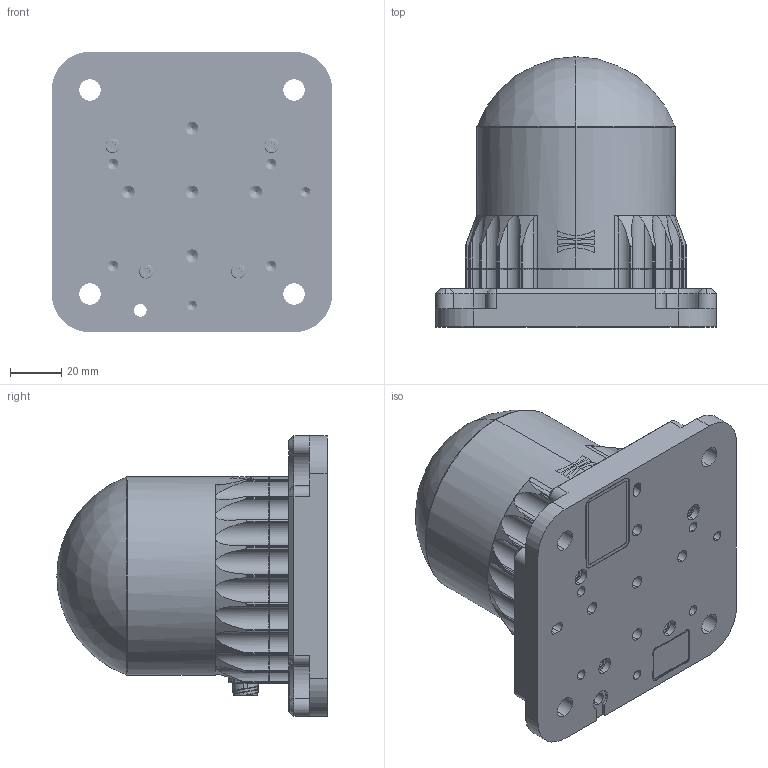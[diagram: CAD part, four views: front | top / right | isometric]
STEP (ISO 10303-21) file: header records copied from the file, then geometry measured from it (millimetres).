
FILE_DESCRIPTION (( 'STEP AP214' ), '1' );
FILE_NAME ('861-OS_Dome_Rev8, Family with baseplate.STEP', '2026-05-01T18:51:25', ( '' ), ( '' ), 'SwSTEP 2.0', 'SolidWorks 2022', '' );
FILE_SCHEMA (( 'AUTOMOTIVE_DESIGN' ));
Length unit declared in the file: millimetre
Products named in the file (1): 861-OS_Dome_Rev8, Family with baseplate
Bounding box: 110 x 105.97 x 110 mm (x, y, z)
Volume: 543783.5 mm3; surface area: 71221.3 mm2
Topology: 10 solids, 10 shells, 1881 faces, 5166 edges, 3255 vertices
Faces by surface type: bspline 827, cylinder 656, cone 236, plane 158, torus 2, sphere 2
Entity records: 123794 total; most frequent: CARTESIAN_POINT 65236, ORIENTED_EDGE 10116, EDGE_CURVE 5058, DIRECTION 4988, VERTEX_POINT 3255, EDGE_LOOP 2009, AXIS2_PLACEMENT_3D 1952, B_SPLINE_CURVE_WITH_KNOTS 1933
